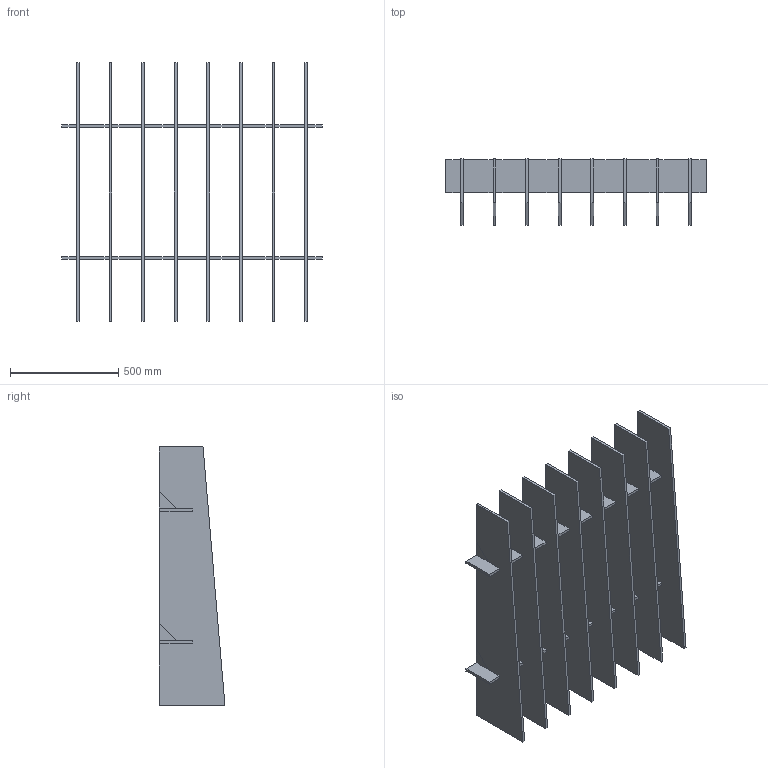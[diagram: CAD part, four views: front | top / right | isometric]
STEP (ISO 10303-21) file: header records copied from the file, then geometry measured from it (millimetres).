
FILE_DESCRIPTION(/* description */ (''),/* implementation_level */ '2;1');
FILE_NAME(/* name */ 'Y:\Design and Engineering\MaterialLogiq\CAD ASSETS\MASTER\BAFFLE\WEB ASSETS\PET BAFFLE_8FIN_4x4_10_SLANT.stp',/* time_stamp */ '2023-11-16T09:49:46-06:00',/* author */ ('Grant Baker'),/* organization */ (''),/* preprocessor_version */ 'ST-DEVELOPER v19',/* originating_system */ 'Autodesk Inventor 2023',/* authorisation */ '');
FILE_SCHEMA (('AUTOMOTIVE_DESIGN { 1 0 10303 214 3 1 1 }'));
Length unit declared in the file: inch
Products named in the file (3): PET BAFFLE_PARAMETRIC_11.02.2023; PET BAFFLE_BEAM; PET BAFFLE_48in_FIN_SLANT
Assembly tree (10 placements, depth 2):
  PET BAFFLE_PARAMETRIC_11.02.2023
    PET BAFFLE_BEAM  x2
    PET BAFFLE_48in_FIN_SLANT  x8
Bounding box: 1206.5 x 304.8 x 1193.8 mm (x, y, z)
Volume: 33893470.2 mm3; surface area: 5994081 mm2
Topology: 26 solids, 26 shells, 412 faces, 1080 edges, 720 vertices
Faces by surface type: plane 412
Entity records: 3423 total; most frequent: CARTESIAN_POINT 597, ORIENTED_EDGE 576, DIRECTION 522, LINE 288, VECTOR 288, EDGE_CURVE 288, VERTEX_POINT 192, AXIS2_PLACEMENT_3D 117
